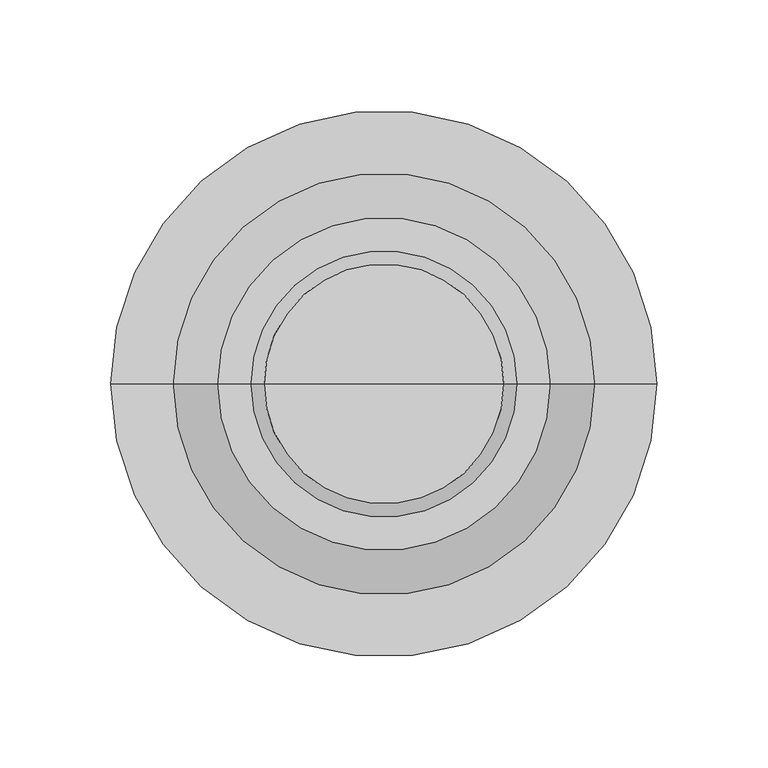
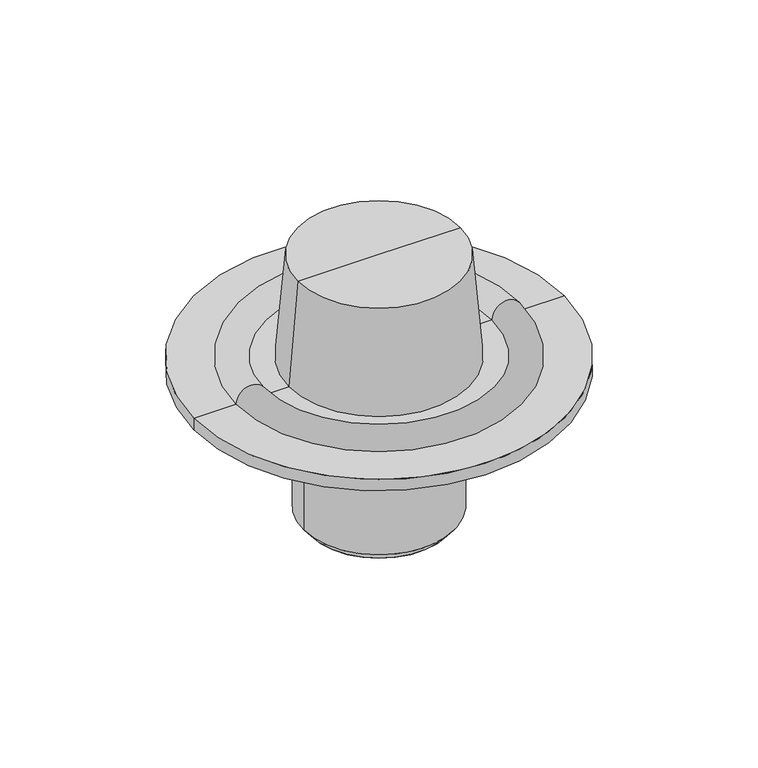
"""IFC4 building model written with IfcOpenShell, lengths in millimetres: flow terminal geometry, ARC_PF_desaigua coberta : Diámetro salida 70mm."""

from ifc_helpers import new_model, si_unit, point, frame, origin, origin_with_axes, origin_2d, place, context, project, spatial, polyline, circle_curve, ellipse_curve, trimmed, segment, composite_curve, outline, extrude, source, transform, mapped, element, save
from ifc_brep_helpers import plane_surface, cylinder_surface, revolved_surface, advanced_brep


def flow_terminal_39898e6f(model_context):
    return source(origin(), model_context, "Body", "SolidModel", [
        extrude(outline(composite_curve([segment(trimmed(circle_curve(origin_2d(), 45.0), [point((-45.0, 0.0))], [point((45.0, 0.0))], False, "CARTESIAN"), True, "CONTINUOUS"), segment(trimmed(circle_curve(origin_2d(), 45.0), [point((45.0, 0.0))], [point((-45.0, 0.0))], False, "CARTESIAN"), True, "CONTINUOUS")], self_intersect=False)), origin_with_axes(), (0.0, 0.0, 1.0), 6.0),
        advanced_brep(
        [(-45.0, 0.0, 0.0), (45.0, 0.0, 0.0), (45.0, 0.0, 6.0), (-45.0, 0.0, 6.0), (-50.0, 0.0, 6.0), (50.0, 0.0, 6.0), (-50.0, 0.0, 76.0), (50.0, 0.0, 76.0), (-55.0, 0.0, 82.0), (55.0, 0.0, 82.0), (-55.0, 0.0, 102.0), (55.0, 0.0, 102.0), (-123.0, 0.0, 102.0), (123.0, 0.0, 102.0), (-123.0, 0.0, 110.0), (123.0, 0.0, 110.0), (-95.0, 0.0, 110.0), (95.0, 0.0, 110.0), (-75.0, 0.0, 110.0), (75.0, 0.0, 110.0), (-60.0, 0.0, 110.0), (60.0, 0.0, 110.0), (-54.0, 0.0, 182.0), (54.0, 0.0, 182.0), (0.0, 0.0, 182.0), (0.0, 0.0, 6.0)],
        [
            (0, 1, circle_curve(frame((0.0, 0.0, 0.0), z_axis=(0.0, 0.0, -1.0), x_axis=(1.0, 0.0, 0.0)), 45.0)),
            (1, 2),
            (2, 3, circle_curve(frame((0.0, 0.0, 6.0), z_axis=(0.0, 0.0, 1.0), x_axis=(1.0, 0.0, 0.0)), 45.0)),
            (3, 0),
            (1, 0, circle_curve(frame((0.0, 0.0, 0.0), z_axis=(0.0, 0.0, -1.0), x_axis=(1.0, 0.0, 0.0)), 45.0)),
            (3, 2, circle_curve(frame((0.0, 0.0, 6.0), z_axis=(0.0, 0.0, 1.0), x_axis=(1.0, 0.0, 0.0)), 45.0)),
            (4, 5, circle_curve(frame((0.0, 0.0, 6.0), z_axis=(0.0, 0.0, -1.0), x_axis=(1.0, 0.0, 0.0)), 50.0)),
            (5, 1),
            (0, 4),
            (5, 4, circle_curve(frame((0.0, 0.0, 6.0), z_axis=(0.0, 0.0, -1.0), x_axis=(1.0, 0.0, 0.0)), 50.0)),
            (6, 7, circle_curve(frame((0.0, 0.0, 76.0), z_axis=(0.0, 0.0, -1.0), x_axis=(1.0, 0.0, 0.0)), 50.0)),
            (7, 5),
            (4, 6),
            (7, 6, circle_curve(frame((0.0, 0.0, 76.0), z_axis=(0.0, 0.0, -1.0), x_axis=(1.0, 0.0, 0.0)), 50.0)),
            (8, 9, circle_curve(frame((0.0, 0.0, 82.0), z_axis=(0.0, 0.0, -1.0), x_axis=(1.0, 0.0, 0.0)), 55.0)),
            (9, 7),
            (6, 8),
            (9, 8, circle_curve(frame((0.0, 0.0, 82.0), z_axis=(0.0, 0.0, -1.0), x_axis=(1.0, 0.0, 0.0)), 55.0)),
            (10, 11, circle_curve(frame((0.0, 0.0, 102.0), z_axis=(0.0, 0.0, -1.0), x_axis=(1.0, 0.0, 0.0)), 55.0)),
            (11, 9),
            (8, 10),
            (11, 10, circle_curve(frame((0.0, 0.0, 102.0), z_axis=(0.0, 0.0, -1.0), x_axis=(1.0, 0.0, 0.0)), 55.0)),
            (12, 13, circle_curve(frame((0.0, 0.0, 102.0), z_axis=(0.0, 0.0, -1.0), x_axis=(1.0, 0.0, 0.0)), 123.0)),
            (13, 11),
            (10, 12),
            (13, 12, circle_curve(frame((0.0, 0.0, 102.0), z_axis=(0.0, 0.0, -1.0), x_axis=(1.0, 0.0, 0.0)), 123.0)),
            (14, 15, circle_curve(frame((0.0, 0.0, 110.0), z_axis=(0.0, 0.0, -1.0), x_axis=(1.0, 0.0, 0.0)), 123.0)),
            (15, 13),
            (12, 14),
            (15, 14, circle_curve(frame((0.0, 0.0, 110.0), z_axis=(0.0, 0.0, -1.0), x_axis=(1.0, 0.0, 0.0)), 123.0)),
            (16, 17, circle_curve(frame((0.0, 0.0, 110.0), z_axis=(0.0, 0.0, -1.0), x_axis=(1.0, 0.0, 0.0)), 95.0)),
            (17, 15),
            (14, 16),
            (17, 16, circle_curve(frame((0.0, 0.0, 110.0), z_axis=(0.0, 0.0, -1.0), x_axis=(1.0, 0.0, 0.0)), 95.0)),
            (18, 19, circle_curve(frame((0.0, 0.0, 110.0), z_axis=(0.0, 0.0, -1.0), x_axis=(1.0, 0.0, 0.0)), 75.0)),
            (19, 17, circle_curve(frame((85.0, 0.0, 110.0), z_axis=(0.0, 1.0, 0.0), x_axis=(1.0, 0.0, 0.0)), 10.0)),
            (16, 18, circle_curve(frame((-85.0, 0.0, 110.0), z_axis=(0.0, 1.0, 0.0), x_axis=(-1.0, 0.0, 0.0)), 10.0)),
            (19, 18, circle_curve(frame((0.0, 0.0, 110.0), z_axis=(0.0, 0.0, -1.0), x_axis=(1.0, 0.0, 0.0)), 75.0)),
            (20, 21, circle_curve(frame((0.0, 0.0, 110.0), z_axis=(0.0, 0.0, -1.0), x_axis=(1.0, 0.0, 0.0)), 60.0)),
            (21, 19),
            (18, 20),
            (21, 20, circle_curve(frame((0.0, 0.0, 110.0), z_axis=(0.0, 0.0, -1.0), x_axis=(1.0, 0.0, 0.0)), 60.0)),
            (22, 23, circle_curve(frame((0.0, 0.0, 182.0), z_axis=(0.0, 0.0, -1.0), x_axis=(1.0, 0.0, 0.0)), 54.0)),
            (23, 21),
            (20, 22),
            (23, 22, circle_curve(frame((0.0, 0.0, 182.0), z_axis=(0.0, 0.0, -1.0), x_axis=(1.0, 0.0, 0.0)), 54.0)),
            (24, 23),
            (22, 24),
            (2, 25),
            (25, 3),
        ],
        [
            revolved_surface(polyline([(45.0, 0.0, 6.0), (45.0, 0.0, 0.0)]), (0.0, 0.0, 197.0), (0.0, 0.0, 1.0)),
            revolved_surface(polyline([(45.0, 0.0, 0.0), (50.0, 0.0, 6.0)]), (0.0, 0.0, 197.0), (0.0, 0.0, 1.0)),
            cylinder_surface(frame((0.0, 0.0, 197.0), z_axis=(0.0, 0.0, 1.0), x_axis=(1.0, 0.0, 0.0)), 50.0),
            revolved_surface(polyline([(50.0, 0.0, 76.0), (55.0, 0.0, 82.0)]), (0.0, 0.0, 197.0), (0.0, 0.0, 1.0)),
            cylinder_surface(frame((0.0, 0.0, 197.0), z_axis=(0.0, 0.0, 1.0), x_axis=(1.0, 0.0, 0.0)), 55.0),
            plane_surface(frame((0.0, 0.0, 102.0), z_axis=(0.0, 0.0, -1.0), x_axis=(1.0, 0.0, 0.0))),
            cylinder_surface(frame((0.0, 0.0, 197.0), z_axis=(0.0, 0.0, 1.0), x_axis=(1.0, 0.0, 0.0)), 123.0),
            plane_surface(frame((0.0, 0.0, 110.0), z_axis=(0.0, 0.0, 1.0), x_axis=(1.0, 0.0, 0.0))),
            revolved_surface(trimmed(ellipse_curve(frame((85.0, 0.0, 110.0), z_axis=(0.0, -1.0, 0.0), x_axis=(1.0, 0.0, 0.0)), 10.0, 10.0), [point((95.0, 0.0, 110.0))], [point((75.0, 0.0, 110.0))], True, "CARTESIAN"), (0.0, 0.0, 197.0), (0.0, 0.0, 1.0)),
            revolved_surface(polyline([(60.0, 0.0, 110.0), (54.0, 0.0, 182.0)]), (0.0, 0.0, 197.0), (0.0, 0.0, 1.0)),
            plane_surface(frame((0.0, 0.0, 182.0), z_axis=(0.0, 0.0, 1.0), x_axis=(1.0, 0.0, 0.0))),
            plane_surface(frame((0.0, 0.0, 6.0), z_axis=(0.0, 0.0, -1.0), x_axis=(1.0, 0.0, 0.0))),
        ],
        [
            (0, [[1, 2, 3, 4]]),
            (0, [[5, -4, 6, -2]]),
            (1, [[7, 8, -1, 9]]),
            (1, [[10, -9, -5, -8]]),
            (2, [[11, 12, -7, 13]]),
            (2, [[14, -13, -10, -12]]),
            (3, [[15, 16, -11, 17]]),
            (3, [[18, -17, -14, -16]]),
            (4, [[19, 20, -15, 21]]),
            (4, [[22, -21, -18, -20]]),
            (5, [[23, 24, -19, 25]]),
            (5, [[26, -25, -22, -24]]),
            (6, [[27, 28, -23, 29]]),
            (6, [[30, -29, -26, -28]]),
            (7, [[31, 32, -27, 33]]),
            (7, [[34, -33, -30, -32]]),
            (8, [[35, 36, -31, 37]]),
            (8, [[38, -37, -34, -36]]),
            (7, [[39, 40, -35, 41]]),
            (7, [[42, -41, -38, -40]]),
            (9, [[43, 44, -39, 45]]),
            (9, [[46, -45, -42, -44]]),
            (10, [[47, -43, 48]]),
            (10, [[-48, -46, -47]]),
            (11, [[-3, 49, 50]]),
            (11, [[-6, -50, -49]]),
        ],
    ),
    ])


if __name__ == "__main__":
    model = new_model("IFC4")
    model_context = context("Model", 3, world=origin())
    ifc_project = project(units=[si_unit("LENGTHUNIT", "METRE", prefix="MILLI")], contexts=[model_context])
    site = spatial("IfcSite", under=ifc_project)
    building = spatial("IfcBuilding", under=site)
    placement = place(None, origin())
    flow_terminal_shape = flow_terminal_39898e6f(model_context)
    element("IfcFlowTerminal", 1, ObjectType="ARC_PF_desaigua coberta : Diámetro salida 70mm", at=placement, inside=building, context=model_context, shape_type="MappedRepresentation", body=[
        mapped(flow_terminal_shape, transform((0.0, 0.0, 0.0), x_axis=(1.0, 0.0, 0.0), y_axis=(0.0, 1.0, 0.0), z_axis=(0.0, 0.0, 1.0))),
    ])
    save(model, "model.ifc")
